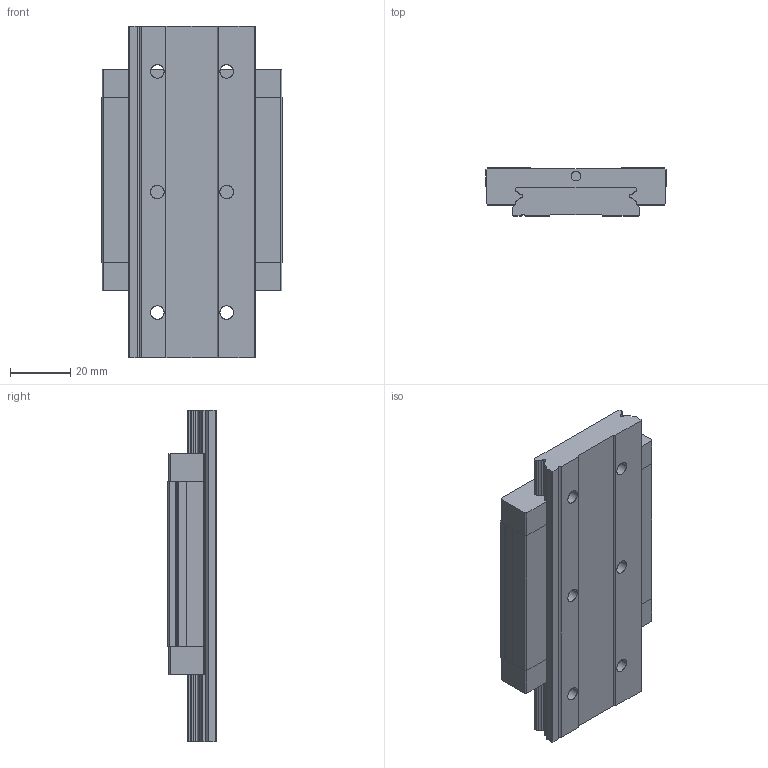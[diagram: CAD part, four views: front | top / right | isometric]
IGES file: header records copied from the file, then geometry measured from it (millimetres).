
Start section: SolidWorks IGES file using analytic representation for surfaces
Bounding box: 60 x 16 x 110 mm (x, y, z)
Surface area: 28874 mm2 (no closed solid volume)
Topology: 0 solids, 0 shells, 221 faces, 2966 edges, 2958 vertices
Faces by surface type: revolution 120, bspline 101
